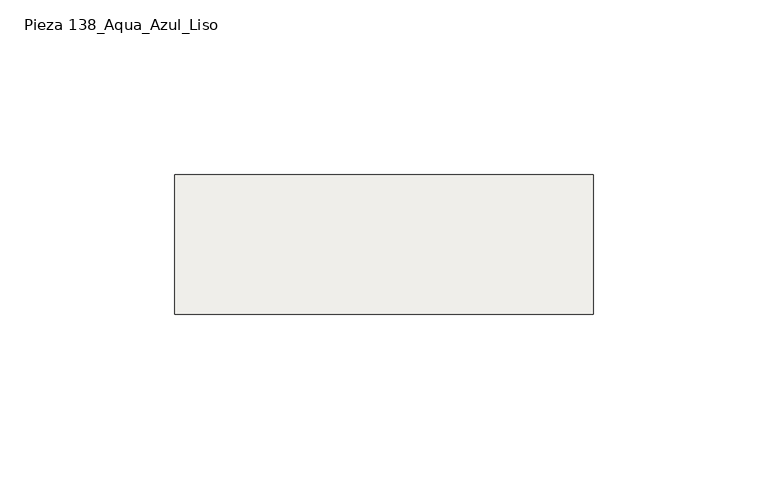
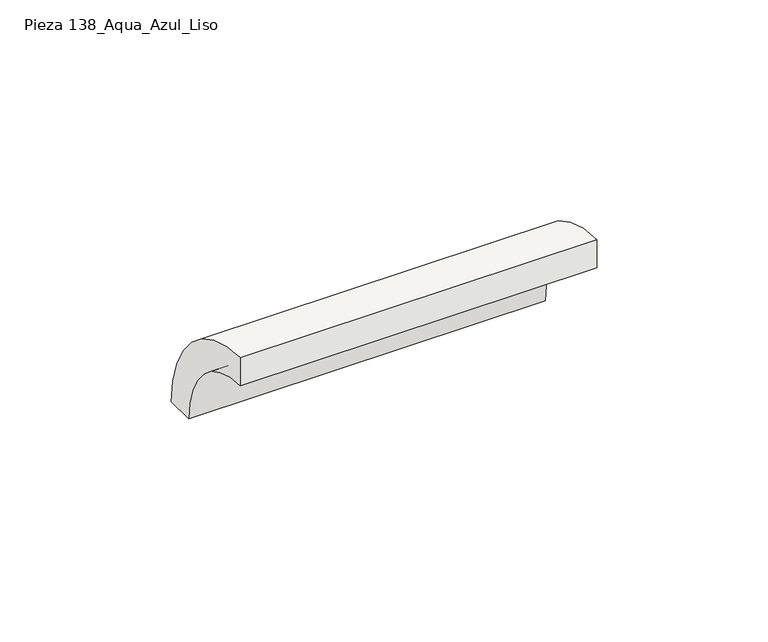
"""IFC4 building model written with IfcOpenShell, lengths in millimetres: slab geometry, ROSA GRES_138 : Pieza 138_Aqua_Azul_Liso."""

import ifcopenshell
import ifcopenshell.guid

model = None  # the IFC model being written
_history = None  # IfcOwnerHistory: only IFC2X3 demands one
_inside = {}  # id of a spatial element -> (the spatial element, [elements in it])
_under = {}  # id of a project, library or spatial element -> (it, [spatial elements below it])
_declared = {}  # id of a project -> (the project, [libraries it declares])
_typed = {}  # id of a type object -> (the type object, [elements of that type])
_made_of = {}  # id of a material, layer set ... -> (it, [elements and type objects made of it])


def new_model(schema):
    """Start an empty IFC model of exactly this schema.

    Asked for "IFC4X3", IfcOpenShell would pick the latest addendum, in which some entities
    have other attributes; the version numbers below select the first issue.
    IFC2X3 requires an IfcOwnerHistory on every rooted entity: one is made here for all.
    """
    global model, _history
    if schema == "IFC4X3":
        model = ifcopenshell.file(schema_version=(4, 3, 0, 0))
    else:
        model = ifcopenshell.file(schema=schema)
    _inside.clear()
    _under.clear()
    _declared.clear()
    _typed.clear()
    _made_of.clear()
    _history = None
    if model.schema == "IFC2X3":
        org = make("IfcOrganization", Name="unknown")
        user = make(
            "IfcPersonAndOrganization",
            ThePerson=make("IfcPerson", FamilyName="unknown"),
            TheOrganization=org,
        )
        app = make(
            "IfcApplication",
            ApplicationDeveloper=org,
            Version="unknown",
            ApplicationFullName="unknown",
            ApplicationIdentifier="unknown",
        )
        _history = make(
            "IfcOwnerHistory",
            OwningUser=user,
            OwningApplication=app,
            ChangeAction="ADDED",
            CreationDate=0,
        )
    return model


def make(cls, **values):
    """One entity of the class cls with the attributes given. An attribute that is None is left unset."""
    return model.create_entity(
        cls, **{name: value for name, value in values.items() if value is not None}
    )


def rooted(cls, **values):
    """An entity with a GlobalId (a new one), such as an element, a storey or a relation."""
    return make(cls, GlobalId=ifcopenshell.guid.new(), OwnerHistory=_history, **values)


def si_unit(unit_type, name, prefix=None):
    """IfcSIUnit, for example si_unit("LENGTHUNIT", "METRE", prefix="MILLI")."""
    return make("IfcSIUnit", UnitType=unit_type, Prefix=prefix, Name=name)


def assignment(units):
    """IfcUnitAssignment: the units of a project."""
    return None if units is None else make("IfcUnitAssignment", Units=units)


def point(xyz):
    """IfcCartesianPoint."""
    return None if xyz is None else make("IfcCartesianPoint", Coordinates=xyz)


def direction(xyz):
    """IfcDirection."""
    return None if xyz is None else make("IfcDirection", DirectionRatios=xyz)


def frame(location, z_axis=None, x_axis=None):
    """IfcAxis2Placement3D, a coordinate frame: its origin and axes. An axis left out is left unset."""
    return make(
        "IfcAxis2Placement3D",
        Location=point(location),
        Axis=direction(z_axis),
        RefDirection=direction(x_axis),
    )


def frame_2d(location, x_axis=None):
    """IfcAxis2Placement2D, a coordinate frame in the plane: its origin and x axis."""
    return make(
        "IfcAxis2Placement2D", Location=point(location), RefDirection=direction(x_axis)
    )


def origin():
    """The frame at (0, 0, 0) with its axes left unset."""
    return frame((0.0, 0.0, 0.0))


def origin_2d():
    """The frame at (0, 0) in the plane with its x axis left unset."""
    return frame_2d((0.0, 0.0))


def place(relative_to, where):
    """IfcLocalPlacement: puts the frame where relative to a parent placement (None: the world)."""
    return make(
        "IfcLocalPlacement", PlacementRelTo=relative_to, RelativePlacement=where
    )


def context(
    kind, dimensions, precision=None, world=None, true_north=None, identifier=None
):
    """IfcGeometricRepresentationContext, for example the 3D "Model" context."""
    return make(
        "IfcGeometricRepresentationContext",
        ContextIdentifier=identifier,
        ContextType=kind,
        CoordinateSpaceDimension=dimensions,
        Precision=precision,
        WorldCoordinateSystem=world,
        TrueNorth=true_north,
    )


def project(units=None, contexts=None):
    """IfcProject with its units and contexts."""
    return rooted(
        "IfcProject",
        Name="project",
        RepresentationContexts=contexts,
        UnitsInContext=assignment(units),
    )


def spatial(cls, under=None, at=None, **own):
    """A site, building, storey or space (cls), placed at a placement, below another one or the project."""
    s = rooted(cls, ObjectPlacement=at, **own)
    if under is not None:
        _under.setdefault(under.id(), (under, []))[1].append(s)
    return s


def polyline(points):
    """IfcPolyline through the points."""
    return make("IfcPolyline", Points=[point(p) for p in points])


def circle_curve(where, radius):
    """IfcCircle in the frame where."""
    return make("IfcCircle", Position=where, Radius=radius)


def trimmed(basis, trim1, trim2, sense, master):
    """IfcTrimmedCurve: the piece of a basis curve between two trims."""
    return make(
        "IfcTrimmedCurve",
        BasisCurve=basis,
        Trim1=trim1,
        Trim2=trim2,
        SenseAgreement=sense,
        MasterRepresentation=master,
    )


def segment(curve, same_sense, transition):
    """IfcCompositeCurveSegment."""
    return make(
        "IfcCompositeCurveSegment",
        Transition=transition,
        SameSense=same_sense,
        ParentCurve=curve,
    )


def composite_curve(segments, self_intersect=None):
    """IfcCompositeCurve: segments joined end to end."""
    return make("IfcCompositeCurve", Segments=segments, SelfIntersect=self_intersect)


def outline(outer, holes=None, kind="AREA"):
    """IfcArbitraryClosedProfileDef: a profile drawn as a closed curve; with holes, ...WithVoids."""
    if holes is None:
        return make("IfcArbitraryClosedProfileDef", ProfileType=kind, OuterCurve=outer)
    return make(
        "IfcArbitraryProfileDefWithVoids",
        ProfileType=kind,
        OuterCurve=outer,
        InnerCurves=holes,
    )


def extrude(swept, where, along, depth):
    """IfcExtrudedAreaSolid: the profile swept, set in the frame where, extruded along a direction by depth."""
    return make(
        "IfcExtrudedAreaSolid",
        SweptArea=swept,
        Position=where,
        ExtrudedDirection=direction(along),
        Depth=depth,
    )


def shape(context_of_items, identifier, shape_type, items):
    """IfcShapeRepresentation: the items that make up one representation, for example the "Body"."""
    return make(
        "IfcShapeRepresentation",
        ContextOfItems=context_of_items,
        RepresentationIdentifier=identifier,
        RepresentationType=shape_type,
        Items=items,
    )


def source(mapping_origin, context_of_items, identifier, shape_type, items):
    """IfcRepresentationMap: a shape defined once, which mapped items show again and again."""
    return make(
        "IfcRepresentationMap",
        MappingOrigin=mapping_origin,
        MappedRepresentation=shape(context_of_items, identifier, shape_type, items),
    )


def transform(
    local_origin,
    x_axis=None,
    y_axis=None,
    z_axis=None,
    scale=None,
    scale2=None,
    scale3=None,
    uniform=True,
):
    """IfcCartesianTransformationOperator3D, or its non-uniform kind. x_axis, y_axis, z_axis: its Axis1, 2, 3."""
    if uniform:
        return make(
            "IfcCartesianTransformationOperator3D",
            Axis1=direction(x_axis),
            Axis2=direction(y_axis),
            LocalOrigin=point(local_origin),
            Scale=scale,
            Axis3=direction(z_axis),
        )
    return make(
        "IfcCartesianTransformationOperator3DnonUniform",
        Axis1=direction(x_axis),
        Axis2=direction(y_axis),
        LocalOrigin=point(local_origin),
        Scale=scale,
        Axis3=direction(z_axis),
        Scale2=scale2,
        Scale3=scale3,
    )


def mapped(mapping_source, mapping_target):
    """IfcMappedItem: shows the shape of a source again, moved by a transform."""
    return make(
        "IfcMappedItem", MappingSource=mapping_source, MappingTarget=mapping_target
    )


def made_of(thing, what):
    """Note that an element or type object is made of a material, layer set ...; save() writes the relation."""
    if what is not None:
        _made_of.setdefault(what.id(), (what, []))[1].append(thing)
    return thing


def element(
    cls,
    number,
    at=None,
    inside=None,
    cuts=None,
    type_object=None,
    material=None,
    context=None,
    identifier="Body",
    shape_type=None,
    held_by="IfcProductDefinitionShape",
    body=None,
    shapes=None,
    **own,
):
    """One element of the class cls, such as IfcWall. Its Tag is "e" and its number.

    at: its placement. inside: the storey or other place that contains it. cuts: it is an
    opening in that element (IfcRelVoidsElement). A single representation is given by context,
    identifier, shape_type and body (its items); several are given by shapes. held_by: the class
    of the entity that holds the representations. save() writes the other relations.
    """
    e = rooted(cls, Tag="e%d" % number, ObjectPlacement=at, **own)
    if body is not None:
        shapes = [shape(context, identifier, shape_type, body)]
    if shapes is not None:
        e.Representation = make(held_by, Representations=shapes)
    if inside is not None:
        _inside.setdefault(inside.id(), (inside, []))[1].append(e)
    if cuts is not None:
        rooted(
            "IfcRelVoidsElement", RelatingBuildingElement=cuts, RelatedOpeningElement=e
        )
    if type_object is not None:
        _typed.setdefault(type_object.id(), (type_object, []))[1].append(e)
    return made_of(e, material)


def aggregate(whole, parts):
    """IfcRelAggregates: a whole, such as a stair, and the parts it consists of."""
    return rooted("IfcRelAggregates", RelatingObject=whole, RelatedObjects=parts)


def save(model, path):
    """Write the relations noted so far, then the file.

    IfcRelAggregates (storeys below a building ...), IfcRelContainedInSpatialStructure (elements
    in a storey), IfcRelDefinesByType, IfcRelAssociatesMaterial and IfcRelDeclares: one each for
    every whole, place, type object, material and project.
    """
    for whole, parts in _under.values():
        aggregate(whole, parts)
    for where, things in _inside.values():
        rooted(
            "IfcRelContainedInSpatialStructure",
            RelatedElements=things,
            RelatingStructure=where,
        )
    for kind, things in _typed.values():
        rooted("IfcRelDefinesByType", RelatedObjects=things, RelatingType=kind)
    for what, things in _made_of.values():
        rooted("IfcRelAssociatesMaterial", RelatedObjects=things, RelatingMaterial=what)
    for by, libraries in _declared.values():
        rooted("IfcRelDeclares", RelatingContext=by, RelatedDefinitions=libraries)
    model.write(path)


def pieza_138_aqua_azul_liso_3aafa499(model_context):
    return source(origin(), model_context, "Body", "SweptSolid", [
        extrude(outline(composite_curve([segment(trimmed(circle_curve(origin_2d(), 40.0), [point((0.0, 40.0))], [point((40.0, 0.0))], False, "CARTESIAN"), True, "CONTINUOUS"), segment(polyline([(40.0, 0.0), (30.0265886, 0.0)]), True, "CONTINUOUS"), segment(trimmed(circle_curve(frame_2d((0.0044453, 0.0044453)), 30.0221435), [point((30.0265886, 0.0))], [point((0.0, 30.0265886))], True, "CARTESIAN"), True, "CONTINUOUS"), segment(polyline([(0.0, 30.0265886), (0.0, 40.0)]), True, "CONTINUOUS")], self_intersect=False)), frame((0.0, 0.0, 0.0), z_axis=(1.0, 0.0, 0.0), x_axis=(0.0, 1.0, 0.0)), (0.0, 0.0, 1.0), 120.0),
    ])


if __name__ == "__main__":
    model = new_model("IFC4")
    model_context = context("Model", 3, world=origin())
    ifc_project = project(units=[si_unit("LENGTHUNIT", "METRE", prefix="MILLI")], contexts=[model_context])
    site = spatial("IfcSite", under=ifc_project)
    building = spatial("IfcBuilding", under=site)
    placement = place(None, origin())
    pieza_138_aqua_azul_liso_shape = pieza_138_aqua_azul_liso_3aafa499(model_context)
    element("IfcSlab", 1, ObjectType="ROSA GRES_138 : Pieza 138_Aqua_Azul_Liso", at=placement, inside=building, context=model_context, shape_type="MappedRepresentation", body=[
        mapped(pieza_138_aqua_azul_liso_shape, transform((0.0, 0.0, 0.0), x_axis=(1.0, 0.0, 0.0), y_axis=(0.0, 1.0, 0.0), z_axis=(0.0, 0.0, 1.0))),
    ])
    save(model, "model.ifc")
